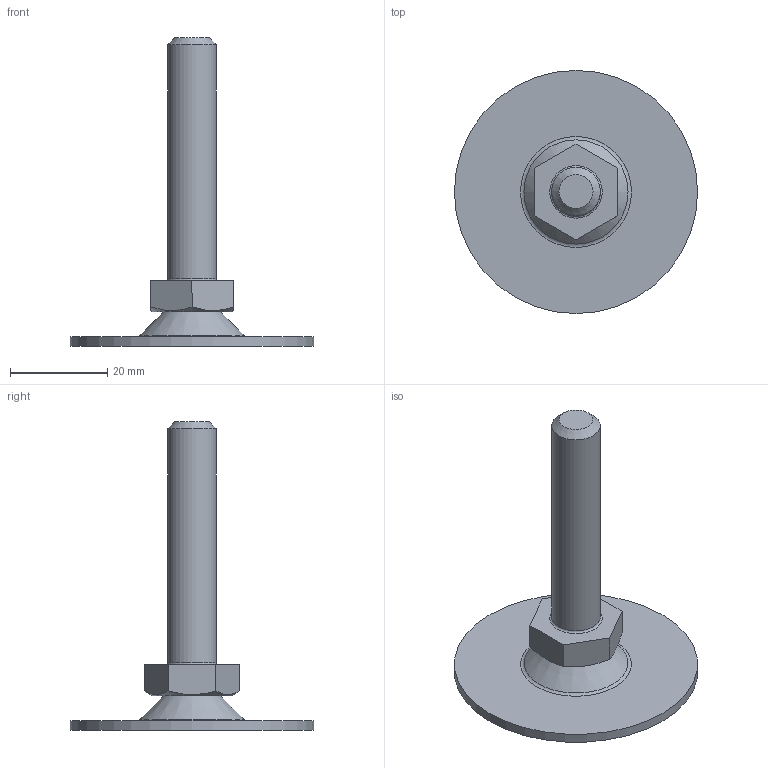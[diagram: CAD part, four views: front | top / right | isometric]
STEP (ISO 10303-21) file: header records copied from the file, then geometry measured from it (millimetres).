
FILE_DESCRIPTION(('STEP AP203'), '1');
FILE_NAME('A00050.1051016', '', ('UNSPECIFIED'), ('UNSPECIFIED'), 'C3D Converter', 'C3D Toolkit', '');
FILE_SCHEMA(('CONFIG_CONTROL_DESIGN'));
Length unit declared in the file: millimetre
Products named in the file (4): A00050.1051050; A00050.1050
Assembly tree (3 placements, depth 2):
  A00050.1051050
    A00050.1050
    (unnamed)
    (unnamed)
Bounding box: 50 x 50 x 63.52 mm (x, y, z)
Volume: 9603.2 mm3; surface area: 7276.1 mm2
Topology: 3 solids, 3 shells, 58 faces, 130 edges, 82 vertices
Faces by surface type: plane 28, torus 8, bspline 8, cone 7, cylinder 6, sphere 1
Full cylindrical faces by diameter (mm): 3.3 x1, 4 x1, 4.5 x1, 8 x1, 10 x1, 50 x1
Entity records: 2171 total; most frequent: CARTESIAN_POINT 784, DIRECTION 242, ORIENTED_EDGE 214, EDGE_CURVE 107, AXIS2_PLACEMENT_3D 95, EDGE_LOOP 86, VERTEX_POINT 81, ADVANCED_FACE 58
